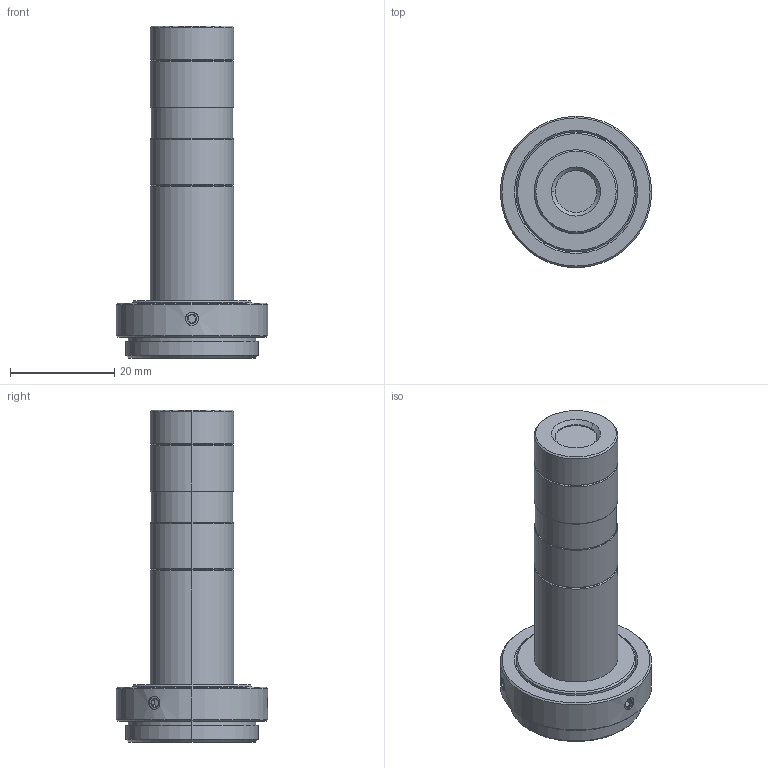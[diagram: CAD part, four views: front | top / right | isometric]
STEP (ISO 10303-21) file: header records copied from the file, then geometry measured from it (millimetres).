
FILE_DESCRIPTION (( 'STEP AP203' ), '1' );
FILE_NAME ('MML6-ST40_A03772A0100101A-001.STEP', '2013-11-26T04:11:12', ( 'SCHOTT' ), ( 'SCHOTT' ), 'SwSTEP 2.0', 'SolidWorks 2011', '' );
FILE_SCHEMA (( 'CONFIG_CONTROL_DESIGN' ));
Length unit declared in the file: millimetre
Products named in the file (1): MML6-ST40_A03772A0100101A-001
Bounding box: 29 x 29 x 63.64 mm (x, y, z)
Volume: 14118.9 mm3; surface area: 6401.9 mm2
Topology: 1 solids, 1 shells, 162 faces, 375 edges, 234 vertices
Faces by surface type: cone 75, plane 47, cylinder 40
Entity records: 4856 total; most frequent: CARTESIAN_POINT 1027, DIRECTION 825, ORIENTED_EDGE 750, EDGE_CURVE 375, AXIS2_PLACEMENT_3D 322, VERTEX_POINT 234, EDGE_LOOP 181, LINE 181
